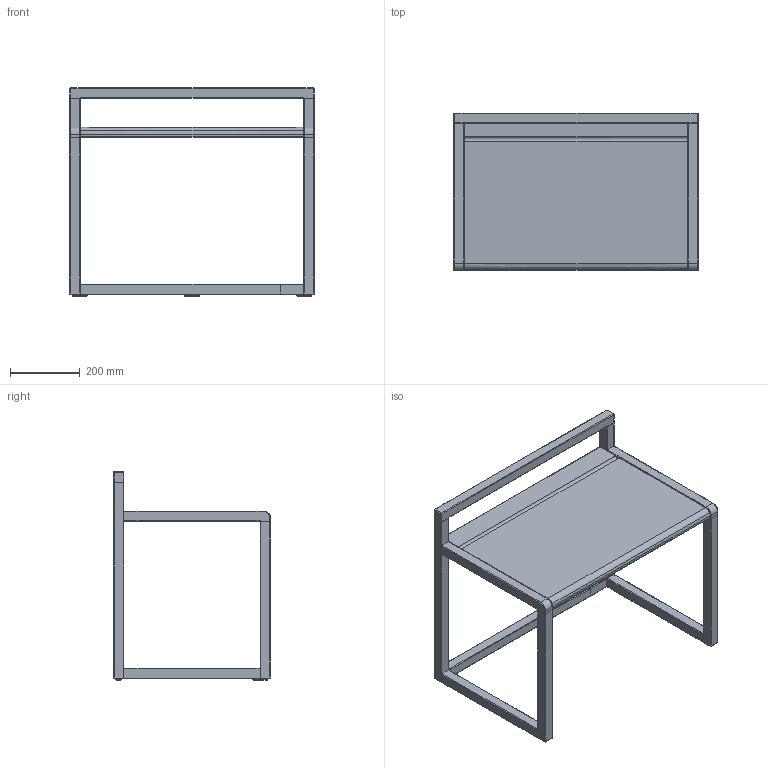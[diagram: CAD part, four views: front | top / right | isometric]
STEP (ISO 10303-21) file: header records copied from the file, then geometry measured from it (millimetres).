
FILE_DESCRIPTION(/* description */ (''),/* implementation_level */ '2;1');
FILE_NAME(/* name */ '171113_Little Architect Desk',/* time_stamp */ '2017-11-13T10:03:43+01:00',/* author */ (''),/* organization */ (''),/* preprocessor_version */ 'ST-DEVELOPER v15',/* originating_system */ '',/* authorisation */ '');
FILE_SCHEMA (('AUTOMOTIVE_DESIGN'));
Length unit declared in the file: millimetre
Products named in the file (1): Document
Bounding box: 700 x 450 x 596 mm (x, y, z)
Volume: 4464968.9 mm3; surface area: 1420615.3 mm2
Topology: 21 solids, 30 shells, 648 faces, 1607 edges, 989 vertices
Faces by surface type: bspline 473, plane 175
Entity records: 19882 total; most frequent: CARTESIAN_POINT 10648, ORIENTED_EDGE 3086, EDGE_CURVE 1575, VERTEX_POINT 989, B_SPLINE_CURVE_WITH_KNOTS 898, EDGE_LOOP 688, ADVANCED_FACE 648, FACE_OUTER_BOUND 648
